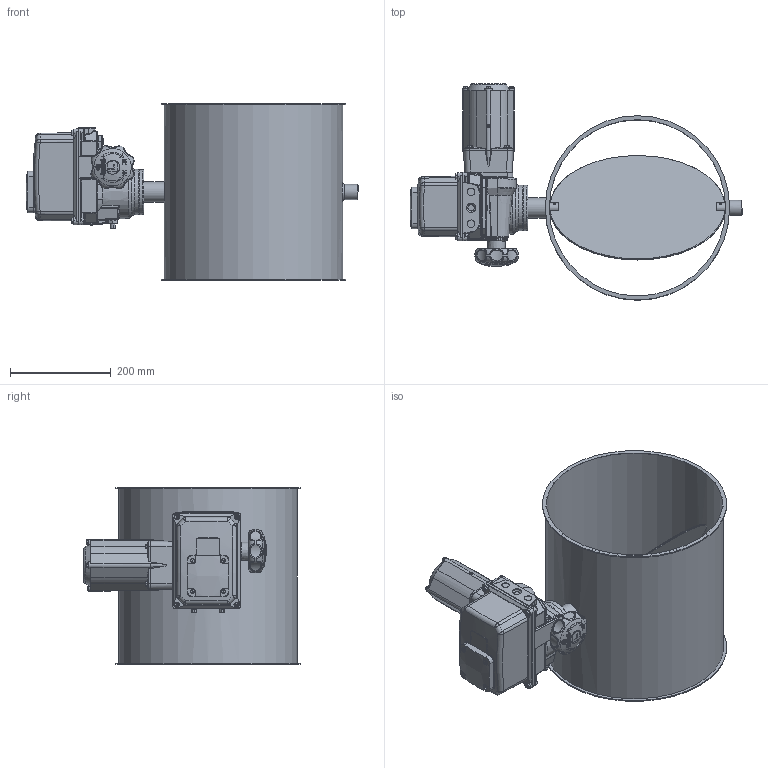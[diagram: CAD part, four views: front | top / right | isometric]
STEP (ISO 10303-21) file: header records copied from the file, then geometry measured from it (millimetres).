
FILE_DESCRIPTION((''),'2;1');
FILE_NAME('U:\Wolfgang\Marcel-3D\fertig\Kapitel 8\3521217.stp','2012-01-13T11:21:44',('iwienholt'),(''),'Autodesk Inventor 2010','Autodesk Inventor 2010','');
FILE_SCHEMA(('AUTOMOTIVE_DESIGN { 1 0 10303 214 1 1 1 1 }'));
Length unit declared in the file: millimetre
Products named in the file (7): 3521217; Bolzen D20; Scheibe350b; D20 Antrieb OAP; BuchseD20 90-50; OAP; 3521217-1
Assembly tree (7 placements, depth 3):
  3521217
    Bolzen D20  x2
    Scheibe350b
    D20 Antrieb OAP
      BuchseD20 90-50
      OAP
    3521217-1
Bounding box: 657.46 x 428.5 x 350 mm (x, y, z)
Volume: 6513810.9 mm3; surface area: 1277197.7 mm2
Topology: 6 solids, 6 shells, 1798 faces, 4675 edges, 3005 vertices
Faces by surface type: plane 968, cylinder 309, bspline 295, sphere 94, torus 83, cone 49
Full cylindrical faces by diameter (mm): 5 x4, 5.1 x8, 6 x4, 6.9 x8, 8 x4, 10 x4, 15 x2, 20 x4, 20.5 x1, 28 x1, 30 x2, 35 x1, 40 x2, 42 x1, 90 x1, 349 x2, 353 x1, 365 x2
Entity records: 73342 total; most frequent: CARTESIAN_POINT 30130, ORIENTED_EDGE 9004, DIRECTION 7959, EDGE_CURVE 4502, VERTEX_POINT 2953, AXIS2_PLACEMENT_3D 2876, VECTOR 2207, LINE 2207
